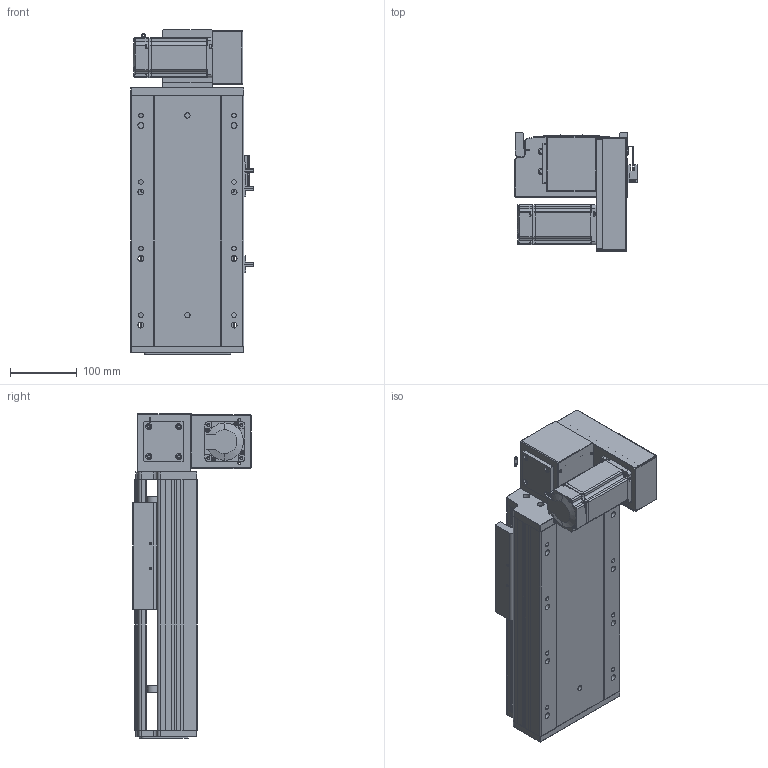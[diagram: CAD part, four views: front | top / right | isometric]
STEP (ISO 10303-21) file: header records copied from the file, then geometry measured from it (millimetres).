
FILE_DESCRIPTION (( 'STEP AP203' ), '1' );
FILE_NAME ('RY170-T-300-DR-P400W.SLDASM_100.step', '2021-03-01T08:22:22', ( '盈信电脑' ), ( '东莞市道滘镇水果街19号' ), 'SwSTEP 2.0', 'SolidWorks 2012', '' );
FILE_SCHEMA (( 'CONFIG_CONTROL_DESIGN' ));
Length unit declared in the file: millimetre
Products named in the file (19): 15; RY170-T-300-DR-P400W.SLDASM_100; RY170-T-呴雄粣揤踡啣; RY170-T肮祭謫裔啣; RY120-T主同步轮轴承压盖; 滅袉蝶18-10; RY170-T蹟翐M4; RY170肮祭謫萇儂欶; RY170-T肮祭湍揤踡輸1; RY170-T肮祭湍揤踡輸2; RY170肮祭謫ヶ裔啣; RY170外置感应片(200共用）; RY170翋肮祭謫釱; RY170同步轮电机安装板(400W); RY170-T-300肮祭謫倰第裔啣-DR_100; 覜茼ん672; RY170綴裔啣; RY170肮祭湍臏賑輸; RY170-T-300肮祭謫倰第菁釱-DR_100
Assembly tree (23 placements, depth 2):
  RY170-T-300-DR-P400W.SLDASM_100
    RY170-T-300肮祭謫倰第菁釱-DR_100
    RY170肮祭湍臏賑輸
    RY170-T-300肮祭謫倰第裔啣-DR_100
    RY170綴裔啣
    覜茼ん672  x3
    RY170外置感应片(200共用）
    RY170肮祭謫ヶ裔啣
    RY170翋肮祭謫釱
    RY170同步轮电机安装板(400W)
    RY170肮祭謫萇儂欶
    RY170-T肮祭湍揤踡輸1  x2
    RY170-T肮祭湍揤踡輸2  x2
    RY120-T主同步轮轴承压盖
    RY170-T肮祭謫裔啣
    RY170-T蹟翐M4
    滅袉蝶18-10  x2
    RY170-T-呴雄粣揤踡啣
    15
Bounding box: 183.7 x 178 x 488 mm (x, y, z)
Volume: 3163086 mm3; surface area: 1016718.5 mm2
Topology: 23 solids, 23 shells, 2550 faces, 6994 edges, 4521 vertices
Faces by surface type: plane 1258, cylinder 1082, cone 180, bspline 30
Entity records: 74309 total; most frequent: CARTESIAN_POINT 15710, ORIENTED_EDGE 11808, DIRECTION 11770, EDGE_CURVE 5904, AXIS2_PLACEMENT_3D 4091, VERTEX_POINT 3877, VECTOR 3588, LINE 3588
